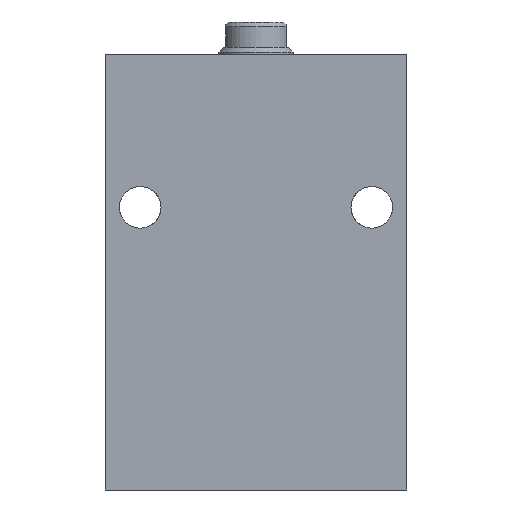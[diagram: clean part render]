
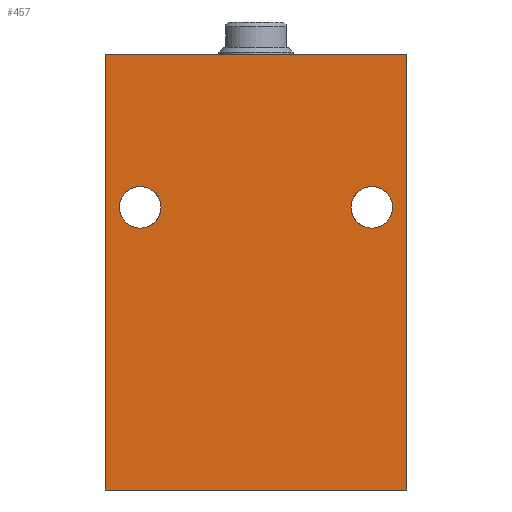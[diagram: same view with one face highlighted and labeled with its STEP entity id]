
A CAD part, front view. The second image highlights one B-rep face of the part: STEP entity #457.
In plain terms, the highlighted planar face has unit normal (0, -1, 0).
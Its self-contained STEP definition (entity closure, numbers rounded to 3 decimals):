
#17 = EDGE_CURVE ( 'NONE', #1270, #1198, #1076, .T. ) ;
#260 = VECTOR ( 'NONE', #818, 1000. ) ;
#261 = LINE ( 'NONE', #820, #260 ) ;
#272 = VECTOR ( 'NONE', #608, 1000. ) ;
#275 = LINE ( 'NONE', #589, #272 ) ;
#282 = VECTOR ( 'NONE', #851, 1000. ) ;
#284 = LINE ( 'NONE', #580, #282 ) ;
#285 = CIRCLE ( 'NONE', #2176, 4.5 ) ;
#313 = CIRCLE ( 'NONE', #2275, 4.5 ) ;
#354 = VECTOR ( 'NONE', #1511, 1000. ) ;
#358 = LINE ( 'NONE', #1522, #354 ) ;
#398 = CIRCLE ( 'NONE', #1907, 4.5 ) ;
#457 = ADVANCED_FACE ( 'NONE', ( #964, #959, #966 ), #2363, .F. ) ;
#547 = DIRECTION ( 'NONE',  ( 0., 0., 1. ) ) ;
#548 = DIRECTION ( 'NONE',  ( 0., 1., 0. ) ) ;
#549 = CARTESIAN_POINT ( 'NONE',  ( 25., -22.5, 61. ) ) ;
#580 = CARTESIAN_POINT ( 'NONE',  ( -32.5, -22.5, 94. ) ) ;
#589 = CARTESIAN_POINT ( 'NONE',  ( -32.5, -22.5, 0. ) ) ;
#590 = DIRECTION ( 'NONE',  ( 0., 1., 0. ) ) ;
#591 = CARTESIAN_POINT ( 'NONE',  ( 25., -22.5, 61. ) ) ;
#608 = DIRECTION ( 'NONE',  ( 1., 0., 0. ) ) ;
#717 = DIRECTION ( 'NONE',  ( 0., 0., 1. ) ) ;
#722 = DIRECTION ( 'NONE',  ( 0., 1., 0. ) ) ;
#734 = CARTESIAN_POINT ( 'NONE',  ( -25., -22.5, 61. ) ) ;
#740 = DIRECTION ( 'NONE',  ( 0., 0., 1. ) ) ;
#818 = DIRECTION ( 'NONE',  ( 0., 0., -1. ) ) ;
#820 = CARTESIAN_POINT ( 'NONE',  ( 32.5, -22.5, 94. ) ) ;
#851 = DIRECTION ( 'NONE',  ( 0., 0., -1. ) ) ;
#959 = FACE_BOUND ( 'NONE', #1121, .T. ) ;
#964 = FACE_BOUND ( 'NONE', #1283, .T. ) ;
#966 = FACE_OUTER_BOUND ( 'NONE', #1151, .T. ) ;
#1076 = CIRCLE ( 'NONE', #2021, 4.5 ) ;
#1121 = EDGE_LOOP ( 'NONE', ( #2805, #2731 ) ) ;
#1151 = EDGE_LOOP ( 'NONE', ( #2804, #2715, #2747, #2708 ) ) ;
#1171 = VERTEX_POINT ( 'NONE', #1512 ) ;
#1180 = VERTEX_POINT ( 'NONE', #1513 ) ;
#1198 = VERTEX_POINT ( 'NONE', #1484 ) ;
#1263 = VERTEX_POINT ( 'NONE', #1844 ) ;
#1264 = VERTEX_POINT ( 'NONE', #1842 ) ;
#1265 = VERTEX_POINT ( 'NONE', #1841 ) ;
#1267 = VERTEX_POINT ( 'NONE', #1838 ) ;
#1270 = VERTEX_POINT ( 'NONE', #1834 ) ;
#1283 = EDGE_LOOP ( 'NONE', ( #2631, #2684 ) ) ;
#1484 = CARTESIAN_POINT ( 'NONE',  ( 25., -22.5, 65.5 ) ) ;
#1511 = DIRECTION ( 'NONE',  ( 1., 0., 0. ) ) ;
#1512 = CARTESIAN_POINT ( 'NONE',  ( -25., -22.5, 56.5 ) ) ;
#1513 = CARTESIAN_POINT ( 'NONE',  ( -25., -22.5, 65.5 ) ) ;
#1522 = CARTESIAN_POINT ( 'NONE',  ( -32.5, -22.5, 94. ) ) ;
#1706 = DIRECTION ( 'NONE',  ( 0., 0., 1. ) ) ;
#1707 = DIRECTION ( 'NONE',  ( 0., 1., 0. ) ) ;
#1708 = CARTESIAN_POINT ( 'NONE',  ( -25., -22.5, 61. ) ) ;
#1834 = CARTESIAN_POINT ( 'NONE',  ( 25., -22.5, 56.5 ) ) ;
#1838 = CARTESIAN_POINT ( 'NONE',  ( -32.5, -22.5, 94. ) ) ;
#1841 = CARTESIAN_POINT ( 'NONE',  ( -32.5, -22.5, 0. ) ) ;
#1842 = CARTESIAN_POINT ( 'NONE',  ( 32.5, -22.5, 94. ) ) ;
#1844 = CARTESIAN_POINT ( 'NONE',  ( 32.5, -22.5, 0. ) ) ;
#1907 = AXIS2_PLACEMENT_3D ( 'NONE', #1708, #1707, #1706 ) ;
#1973 = AXIS2_PLACEMENT_3D ( 'NONE', #2365, #2368, #2358 ) ;
#2021 = AXIS2_PLACEMENT_3D ( 'NONE', #549, #548, #547 ) ;
#2058 = EDGE_CURVE ( 'NONE', #1171, #1180, #398, .T. ) ;
#2176 = AXIS2_PLACEMENT_3D ( 'NONE', #591, #590, #740 ) ;
#2275 = AXIS2_PLACEMENT_3D ( 'NONE', #734, #722, #717 ) ;
#2358 = DIRECTION ( 'NONE',  ( 0., 0., 1. ) ) ;
#2363 = PLANE ( 'NONE',  #1973 ) ;
#2365 = CARTESIAN_POINT ( 'NONE',  ( -32.5, -22.5, 94. ) ) ;
#2368 = DIRECTION ( 'NONE',  ( 0., 1., 0. ) ) ;
#2538 = EDGE_CURVE ( 'NONE', #1267, #1264, #358, .T. ) ;
#2568 = EDGE_CURVE ( 'NONE', #1180, #1171, #313, .T. ) ;
#2591 = EDGE_CURVE ( 'NONE', #1198, #1270, #285, .T. ) ;
#2592 = EDGE_CURVE ( 'NONE', #1267, #1265, #284, .T. ) ;
#2599 = EDGE_CURVE ( 'NONE', #1265, #1263, #275, .T. ) ;
#2613 = EDGE_CURVE ( 'NONE', #1264, #1263, #261, .T. ) ;
#2631 = ORIENTED_EDGE ( 'NONE', *, *, #2568, .T. ) ;
#2684 = ORIENTED_EDGE ( 'NONE', *, *, #2058, .T. ) ;
#2708 = ORIENTED_EDGE ( 'NONE', *, *, #2592, .T. ) ;
#2715 = ORIENTED_EDGE ( 'NONE', *, *, #2613, .F. ) ;
#2731 = ORIENTED_EDGE ( 'NONE', *, *, #17, .T. ) ;
#2747 = ORIENTED_EDGE ( 'NONE', *, *, #2538, .F. ) ;
#2804 = ORIENTED_EDGE ( 'NONE', *, *, #2599, .T. ) ;
#2805 = ORIENTED_EDGE ( 'NONE', *, *, #2591, .T. ) ;
